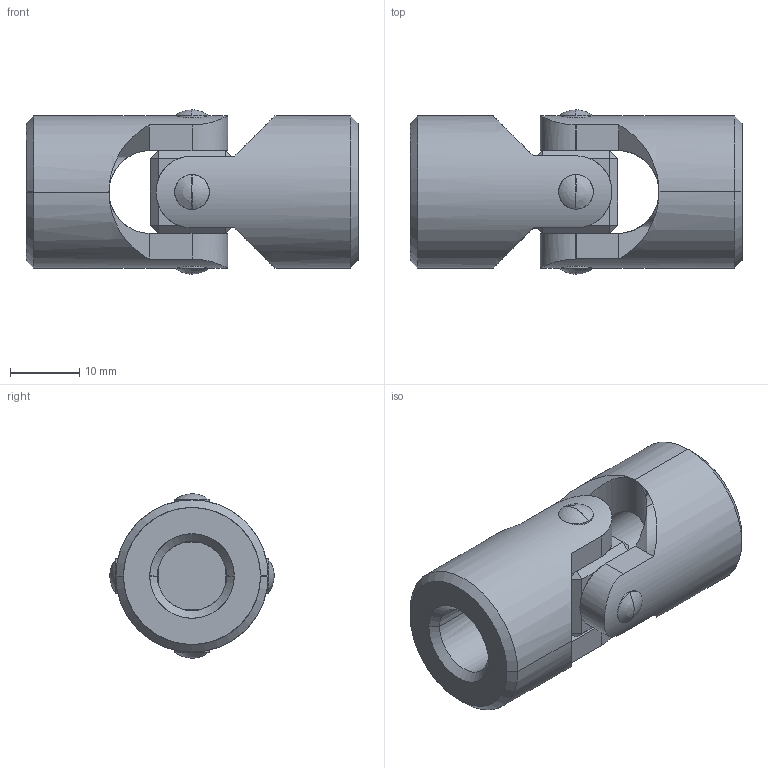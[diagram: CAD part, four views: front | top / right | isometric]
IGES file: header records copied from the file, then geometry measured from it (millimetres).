
Start section: SolidWorks IGES file using analytic representation for surfaces
Global section: file name: E:\WIXROYD\65186_v2\65186_v2_20180418_IGES\65186.W0010.igs; native system: SolidWorks 2017; preprocessor: SolidWorks 2017; author: liam_; date: 180618.201725; units: millimetre
Bounding box: 48 x 23.76 x 23.76 mm (x, y, z)
Surface area: 7257 mm2 (no closed solid volume)
Topology: 0 solids, 0 shells, 100 faces, 1748 edges, 1744 vertices
Faces by surface type: revolution 52, bspline 48
